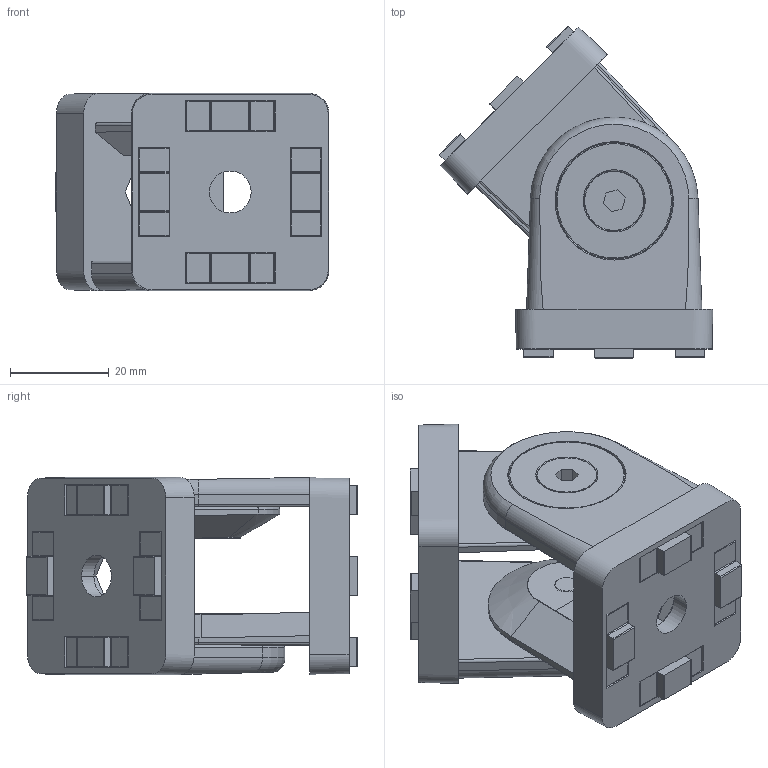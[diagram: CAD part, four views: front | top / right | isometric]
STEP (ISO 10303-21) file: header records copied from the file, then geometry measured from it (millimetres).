
FILE_DESCRIPTION (( 'STEP AP214' ), '1' );
FILE_NAME ('Scharnierverbinder 4040.STEP', '2019-10-07T18:30:59', ( '' ), ( '' ), 'SwSTEP 2.0', 'SolidWorks 2018', '' );
FILE_SCHEMA (( 'AUTOMOTIVE_DESIGN' ));
Length unit declared in the file: millimetre
Products named in the file (6): Scharnierverbinder 4040; _093G40AN_part_5_4; _093G40AN_part_2_14; _093G40AN_part_4_18; _093G40AN_part_3_16; _093G40AN_part_1_2
Assembly tree (16 placements, depth 2):
  Scharnierverbinder 4040
    _093G40AN_part_1_2  x2
    _093G40AN_part_5_4  x8
    _093G40AN_part_2_14  x2
    _093G40AN_part_3_16  x2
    _093G40AN_part_4_18  x2
Bounding box: 55.5 x 67.3 x 40 mm (x, y, z)
Volume: 46933.3 mm3; surface area: 30505.7 mm2
Topology: 16 solids, 16 shells, 746 faces, 1968 edges, 1282 vertices
Faces by surface type: plane 334, cylinder 270, torus 82, cone 56, bspline 4
Entity records: 12745 total; most frequent: CARTESIAN_POINT 2195, ORIENTED_EDGE 1500, DIRECTION 1483, EDGE_CURVE 750, AXIS2_PLACEMENT_3D 551, VERTEX_POINT 485, VECTOR 381, LINE 381
